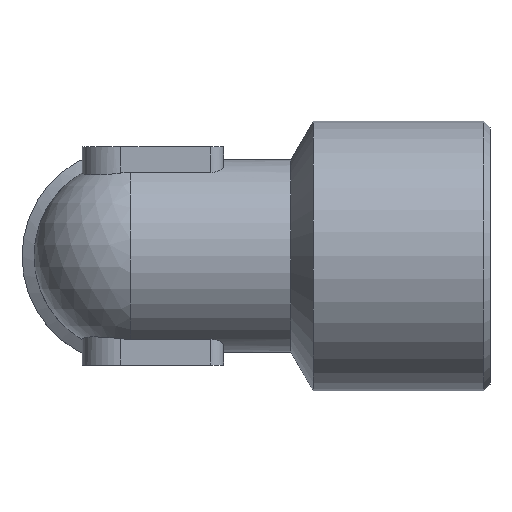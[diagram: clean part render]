
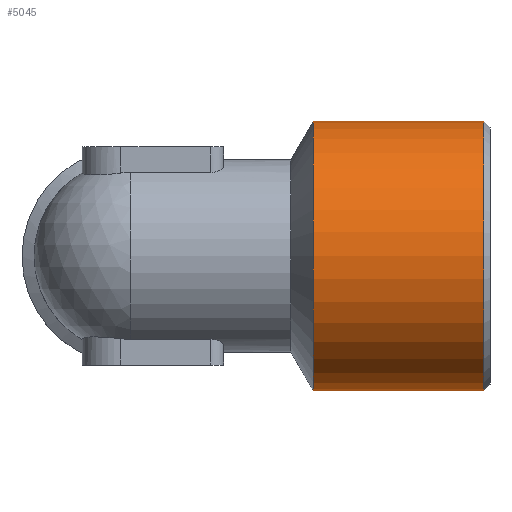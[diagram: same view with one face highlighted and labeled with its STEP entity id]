
A CAD part, top view. The second image highlights one B-rep face of the part: STEP entity #5045.
In plain terms, the highlighted cylindrical face has radius 10.5 mm (diameter 21 mm), a full revolution.
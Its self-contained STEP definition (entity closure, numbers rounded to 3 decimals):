
#1188=CYLINDRICAL_SURFACE('',#4943,10.5);
#1220=ORIENTED_EDGE('',*,*,#1543,.F.);
#1221=ORIENTED_EDGE('',*,*,#1542,.T.);
#1428=CIRCLE('',#4942,10.5);
#1429=CIRCLE('',#4944,10.5);
#1466=VERTEX_POINT('',#1995);
#1467=VERTEX_POINT('',#1998);
#1542=EDGE_CURVE('',#1466,#1466,#1428,.T.);
#1543=EDGE_CURVE('',#1467,#1467,#1429,.T.);
#1649=EDGE_LOOP('',(#1220));
#1650=EDGE_LOOP('',(#1221));
#1710=FACE_BOUND('',#1649,.T.);
#1711=FACE_BOUND('',#1650,.T.);
#1775=DIRECTION('',(-1.,0.,0.));
#1776=DIRECTION('',(0.,0.,10.5));
#1777=DIRECTION('',(-1.,0.,0.));
#1778=DIRECTION('',(0.,1.,0.));
#1779=DIRECTION('',(-1.,0.,0.));
#1780=DIRECTION('',(0.,0.,10.5));
#1995=CARTESIAN_POINT('',(51.924,48.302,10.5));
#1996=CARTESIAN_POINT('',(51.924,48.302,0.));
#1997=CARTESIAN_POINT('',(51.924,48.302,0.));
#1998=CARTESIAN_POINT('',(38.656,48.302,10.5));
#1999=CARTESIAN_POINT('',(38.656,48.302,0.));
#4942=AXIS2_PLACEMENT_3D('',#1996,#1775,#1776);
#4943=AXIS2_PLACEMENT_3D('',#1997,#1777,#1778);
#4944=AXIS2_PLACEMENT_3D('',#1999,#1779,#1780);
#5045=ADVANCED_FACE('',(#1710,#1711),#1188,.T.);
